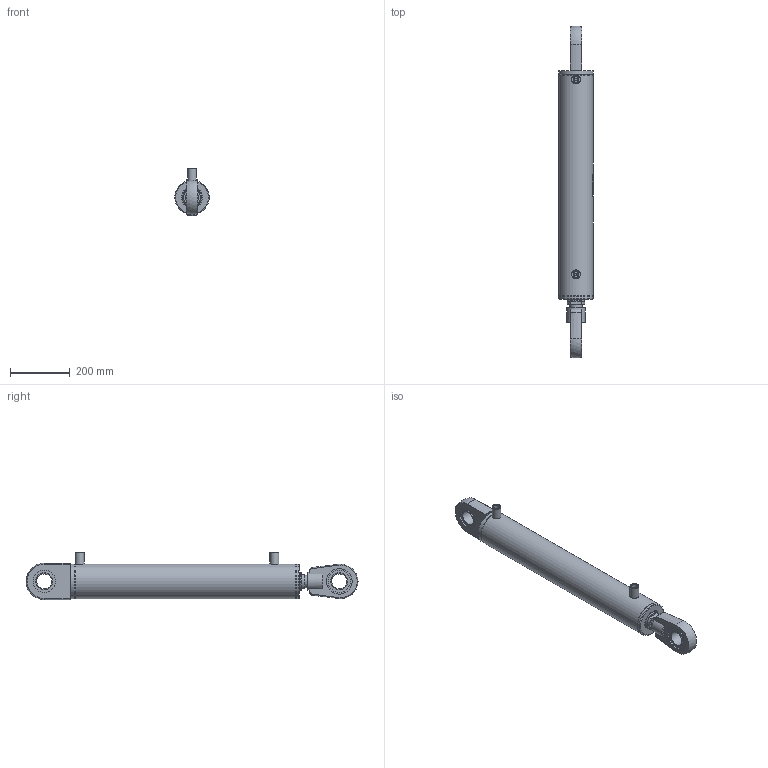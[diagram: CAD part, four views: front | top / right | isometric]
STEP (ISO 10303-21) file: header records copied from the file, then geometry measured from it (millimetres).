
FILE_DESCRIPTION(/* description */ (''),/* implementation_level */ '2;1');
FILE_NAME(/* name */ 'HC_A_100_60_600_AMB_WEB.step',/* time_stamp */ '2023-07-31T15:02:50+03:00',/* author */ (''),/* organization */ (''),/* preprocessor_version */ 'ST-DEVELOPER v20',/* originating_system */ 'Autodesk Translation Framework v12.9.0.99',/* authorisation */ '');
FILE_SCHEMA (('AUTOMOTIVE_DESIGN { 1 0 10303 214 3 1 1 }'));
Length unit declared in the file: millimetre
Products named in the file (20): TRACE_PARTS_MONTAJ; TAK_100_115; TAK_100_115_1; Ø100 x Ø115 _H_BORU; 100X115_H_BORU; Ø60_K_MİL; 60_K_MİL; TDK_100_060; TDK_80_45; K33-060_3; K3-060_3; K06-60X70X5_5X7 (K06_060_5); KO-90X5; Bileşen1; RMK_50; RMV_50; dgihl_50_do; Manşon_1_2; Manşon_1_2_1; MANŞON_1/2
Assembly tree (20 placements, depth 4):
  TRACE_PARTS_MONTAJ
    TAK_100_115
      TAK_100_115_1
    Ø100 x Ø115 _H_BORU
      100X115_H_BORU
    Ø60_K_MİL
      60_K_MİL
    TDK_100_060
      TDK_80_45
      K33-060_3
        K3-060_3
      K06-60X70X5_5X7 (K06_060_5)
      KO-90X5
        Bileşen1
    RMK_50
    RMV_50
      dgihl_50_do
    Manşon_1_2
      MANŞON_1/2
    Manşon_1_2_1
      MANŞON_1/2
Bounding box: 115 x 1113.16 x 159 mm (x, y, z)
Volume: 4195728.1 mm3; surface area: 798554.2 mm2
Topology: 11 solids, 11 shells, 775 faces, 2024 edges, 1339 vertices
Faces by surface type: bspline 392, plane 236, cylinder 73, cone 48, torus 18, sphere 8
Full cylindrical faces by diameter (mm): 8 x2, 19 x2, 30 x3, 41.822 x1, 43.376 x1, 44.85 x1, 50 x3, 60 x3, 60.948 x2, 61 x1, 61.6 x1, 62.6 x1, 69.408 x1, 69.425 x1, 70 x1, 70.6 x1, 75 x4, 86 x2, 90 x1, 98 x1, 99 x2, 100 x2, 101 x1, 103.022 x1, 104.822 x1, 115 x3
Entity records: 36680 total; most frequent: CARTESIAN_POINT 19803, ORIENTED_EDGE 4004, DIRECTION 2287, EDGE_CURVE 2002, VERTEX_POINT 1329, EDGE_LOOP 861, LINE 851, VECTOR 851
